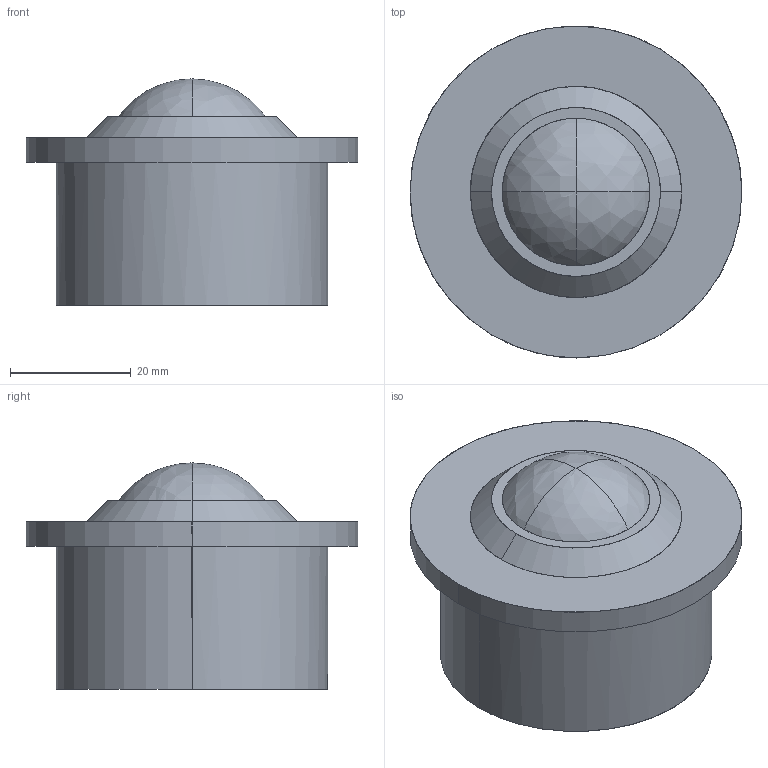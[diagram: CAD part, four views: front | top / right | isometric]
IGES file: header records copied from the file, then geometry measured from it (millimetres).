
Start section: START RECORD GO HERE.
Global section: file name: KU30B.igs; native system: DASSAULT SYSTEMES CATIA V5 R20 - www.3ds.com; preprocessor: CATIA Version 5 Release 20 ; author: Utente; organization: NB04-ASUS; date: 20201027.210535; units: millimetre
Bounding box: 55 x 55 x 37.5 mm (x, y, z)
Surface area: 13528.8 mm2 (no closed solid volume)
Topology: 0 solids, 0 shells, 26 faces, 107 edges, 92 vertices
Faces by surface type: revolution 22, plane 4
